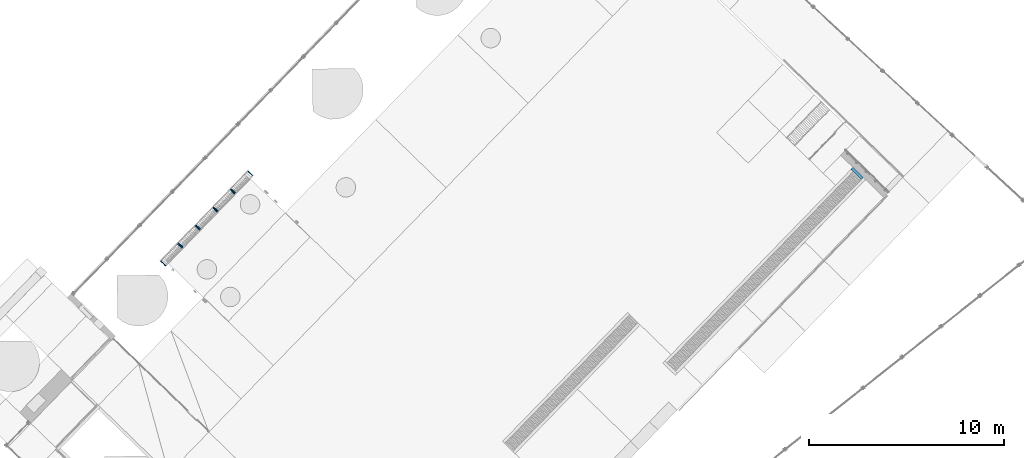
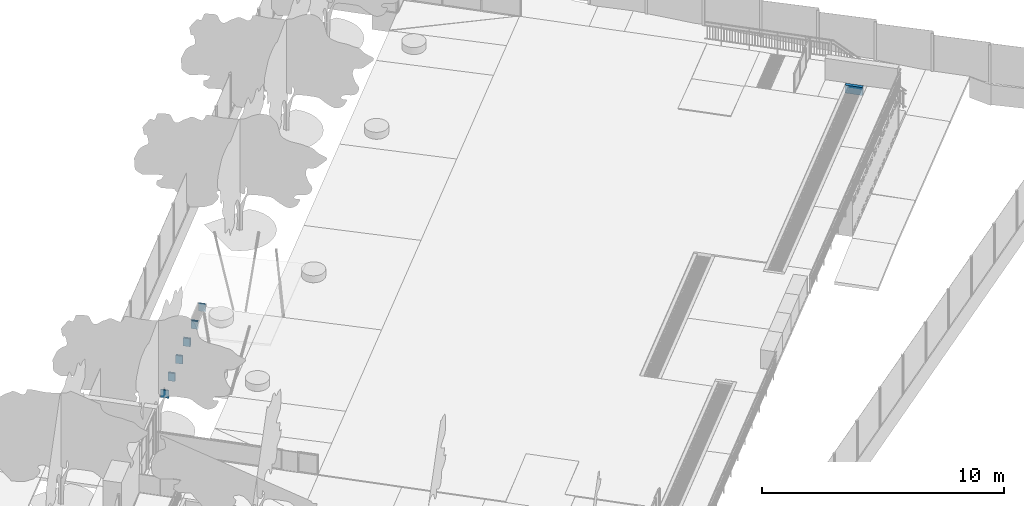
# One storey, part 20 of 37: 11 walls.
"""IFC2X3 building model written with IfcOpenShell, lengths in centimetres."""

from ifc_helpers import new_model, entity, si_unit, converted_unit, derived_unit, direction, frame, frame_2d, origin, place, context, subcontext, project, spatial, rectangle, extrude, material, layer, layer_set, layer_usage, type_object, element, save


model = new_model("IFC2X3")

# Units and contexts
model_context = context("Model", 3, precision=0.001, world=origin(), true_north=direction((0.717475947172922, 0.696583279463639)))
body_context = subcontext(model_context, "Body", "Model", "MODEL_VIEW")
ifc_project = project(units=[si_unit("LENGTHUNIT", "METRE", prefix="CENTI"), si_unit("AREAUNIT", "SQUARE_METRE"), si_unit("VOLUMEUNIT", "CUBIC_METRE"), converted_unit("PLANEANGLEUNIT", "DEGREE", entity("IfcRatioMeasure", 0.0174532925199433), si_unit("PLANEANGLEUNIT", "RADIAN"), dimensions=[0, 0, 0, 0, 0, 0, 0]), si_unit("MASSUNIT", "GRAM", prefix="KILO"), derived_unit("MASSDENSITYUNIT", [(si_unit("MASSUNIT", "GRAM", prefix="KILO"), 1), (si_unit("LENGTHUNIT", "METRE"), -3)]), si_unit("TIMEUNIT", "SECOND"), si_unit("FREQUENCYUNIT", "HERTZ"), si_unit("THERMODYNAMICTEMPERATUREUNIT", "DEGREE_CELSIUS"), derived_unit("THERMALTRANSMITTANCEUNIT", [(si_unit("MASSUNIT", "GRAM", prefix="KILO"), 1), (si_unit("THERMODYNAMICTEMPERATUREUNIT", "KELVIN"), -1), (si_unit("TIMEUNIT", "SECOND"), -3)]), derived_unit("VOLUMETRICFLOWRATEUNIT", [(si_unit("LENGTHUNIT", "METRE"), 3), (si_unit("TIMEUNIT", "SECOND"), -1)]), si_unit("ELECTRICCURRENTUNIT", "AMPERE"), si_unit("ELECTRICVOLTAGEUNIT", "VOLT"), si_unit("POWERUNIT", "WATT"), si_unit("FORCEUNIT", "NEWTON", prefix="KILO"), si_unit("ILLUMINANCEUNIT", "LUX"), si_unit("LUMINOUSFLUXUNIT", "LUMEN"), si_unit("LUMINOUSINTENSITYUNIT", "CANDELA"), derived_unit("USERDEFINED", [(si_unit("MASSUNIT", "GRAM", prefix="KILO"), -1), (si_unit("LENGTHUNIT", "METRE"), -2), (si_unit("TIMEUNIT", "SECOND"), 3), (si_unit("LUMINOUSFLUXUNIT", "LUMEN"), 1)]), derived_unit("LINEARVELOCITYUNIT", [(si_unit("LENGTHUNIT", "METRE"), 1), (si_unit("TIMEUNIT", "SECOND"), -1)]), si_unit("PRESSUREUNIT", "PASCAL"), derived_unit("USERDEFINED", [(si_unit("LENGTHUNIT", "METRE"), -2), (si_unit("MASSUNIT", "GRAM", prefix="KILO"), 1), (si_unit("TIMEUNIT", "SECOND"), -2)])], contexts=[model_context])

# Site, building, storey
site_placement = place(None, frame((0.0, 0.0, 0.0), z_axis=(0.0, 0.0, 1.0), x_axis=(0.696583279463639, 0.717475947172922, 0.0)))
site = spatial("IfcSite", under=ifc_project, at=site_placement, Name="Surface", CompositionType="ELEMENT")
building_placement = place(site_placement, origin())
building = spatial("IfcBuilding", under=site, at=building_placement, CompositionType="ELEMENT")
storey_placement = place(building_placement, origin())
storey = spatial("IfcBuildingStorey", under=building, at=storey_placement, Name="Nivel 0.00", CompositionType="ELEMENT", Elevation=0.0)

# Walls
ifc_material = material(Name="Concrete, Cast-in-Place gray")
ifc_layer_1 = layer(ifc_material, 15.0)
ifc_layer_set_1 = layer_set([ifc_layer_1], Name="Basic Wall:ARQ_FND_HA_150mm")
ifc_layer_usage_1 = layer_usage(ifc_layer_set_1, "AXIS2", "POSITIVE", -7.5)
wall_type_1 = type_object("IfcWallType", Name="Basic Wall:ARQ_FND_HA_150mm", PredefinedType="STANDARD", material=ifc_layer_set_1)
wall_1_placement = place(storey_placement, frame((1653.05250487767, -1420.04600379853, 110.0), z_axis=(0.0, 0.0, 1.0), x_axis=(0.0, 1.0, 0.0)))
element("IfcWallStandardCase", 1, at=wall_1_placement, inside=storey, type_object=wall_type_1, material=ifc_layer_usage_1, Name="Basic Wall:ARQ_FND_HA_150mm", ObjectType="Basic Wall:ARQ_FND_HA_150mm", context=body_context, shape_type="SweptSolid", body=[
    extrude(rectangle(XDim=74.9911465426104, YDim=15.0000000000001, at=frame_2d((37.4955732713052, -2.70894418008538e-14), x_axis=(-1.0, 0.0))), origin(), (0.0, 0.0, 1.0), 40.0),
])
ifc_layer_2 = layer(ifc_material, 5.0)
ifc_layer_set_2 = layer_set([ifc_layer_2], Name="Basic Wall:ARQ_FND_HA_50mm")
ifc_layer_usage_2 = layer_usage(ifc_layer_set_2, "AXIS2", "NEGATIVE", 2.5)
wall_type_2 = type_object("IfcWallType", Name="Basic Wall:ARQ_FND_HA_50mm", PredefinedType="STANDARD", material=ifc_layer_set_2)
wall_2_placement = place(storey_placement, frame((-1153.51946442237, 828.098169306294, 100.0), z_axis=(0.0, 0.0, 1.0), x_axis=(0.0, 1.0, 0.0)))
element("IfcWallStandardCase", 2, at=wall_2_placement, inside=storey, type_object=wall_type_2, material=ifc_layer_usage_2, Name="Basic Wall:ARQ_FND_HA_50mm", ObjectType="Basic Wall:ARQ_FND_HA_50mm", context=body_context, shape_type="SweptSolid", body=[
    extrude(rectangle(XDim=35.0000000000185, YDim=5.00000000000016, at=frame_2d((17.5000000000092, 0.0), x_axis=(-1.0, 0.0))), origin(), (0.0, 0.0, 1.0), 40.0),
])
ifc_layer_usage_3 = layer_usage(ifc_layer_set_2, "AXIS2", "NEGATIVE", 2.5)
wall_3_placement = place(storey_placement, frame((-512.009307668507, 863.098169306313, 100.0), z_axis=(0.0, 0.0, 1.0), x_axis=(0.0, -1.0, 0.0)))
element("IfcWallStandardCase", 3, at=wall_3_placement, inside=storey, type_object=wall_type_2, material=ifc_layer_usage_3, Name="Basic Wall:ARQ_FND_HA_50mm", ObjectType="Basic Wall:ARQ_FND_HA_50mm", context=body_context, shape_type="SweptSolid", body=[
    extrude(rectangle(XDim=30.0000000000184, YDim=4.99999999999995, at=frame_2d((15.0000000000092, 0.0), x_axis=(-1.0, 0.0))), origin(), (0.0, 0.0, 1.0), 40.0),
])
ifc_layer_usage_4 = layer_usage(ifc_layer_set_2, "AXIS2", "NEGATIVE", 2.5)
wall_4_placement = place(storey_placement, frame((-642.519464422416, 863.098169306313, 100.0), z_axis=(0.0, 0.0, 1.0), x_axis=(0.0, -1.0, 0.0)))
element("IfcWallStandardCase", 4, at=wall_4_placement, inside=storey, type_object=wall_type_2, material=ifc_layer_usage_4, Name="Basic Wall:ARQ_FND_HA_50mm", ObjectType="Basic Wall:ARQ_FND_HA_50mm", context=body_context, shape_type="SweptSolid", body=[
    extrude(rectangle(XDim=30.0000000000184, YDim=4.99999999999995, at=frame_2d((15.0000000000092, 0.0), x_axis=(-1.0, 0.0))), origin(), (0.0, 0.0, 1.0), 40.0),
])
ifc_layer_usage_5 = layer_usage(ifc_layer_set_2, "AXIS2", "POSITIVE", -2.5)
wall_5_placement = place(storey_placement, frame((-637.519464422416, 863.098169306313, 100.0), z_axis=(0.0, 0.0, 1.0), x_axis=(0.0, -1.0, 0.0)))
element("IfcWallStandardCase", 5, at=wall_5_placement, inside=storey, type_object=wall_type_2, material=ifc_layer_usage_5, Name="Basic Wall:ARQ_FND_HA_50mm", ObjectType="Basic Wall:ARQ_FND_HA_50mm", context=body_context, shape_type="SweptSolid", body=[
    extrude(rectangle(XDim=30.0000000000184, YDim=4.99999999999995, at=frame_2d((15.0000000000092, 0.0), x_axis=(-1.0, 0.0))), origin(), (0.0, 0.0, 1.0), 40.0),
])
ifc_layer_usage_6 = layer_usage(ifc_layer_set_2, "AXIS2", "NEGATIVE", 2.5)
wall_6_placement = place(storey_placement, frame((-771.519464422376, 863.098169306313, 100.0), z_axis=(0.0, 0.0, 1.0), x_axis=(0.0, -1.0, 0.0)))
element("IfcWallStandardCase", 6, at=wall_6_placement, inside=storey, type_object=wall_type_2, material=ifc_layer_usage_6, Name="Basic Wall:ARQ_FND_HA_50mm", ObjectType="Basic Wall:ARQ_FND_HA_50mm", context=body_context, shape_type="SweptSolid", body=[
    extrude(rectangle(XDim=30.0000000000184, YDim=4.99999999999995, at=frame_2d((15.0000000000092, 0.0), x_axis=(-1.0, 0.0))), origin(), (0.0, 0.0, 1.0), 40.0),
])
ifc_layer_usage_7 = layer_usage(ifc_layer_set_2, "AXIS2", "POSITIVE", -2.5)
wall_7_placement = place(storey_placement, frame((-766.519464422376, 863.098169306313, 100.0), z_axis=(0.0, 0.0, 1.0), x_axis=(0.0, -1.0, 0.0)))
element("IfcWallStandardCase", 7, at=wall_7_placement, inside=storey, type_object=wall_type_2, material=ifc_layer_usage_7, Name="Basic Wall:ARQ_FND_HA_50mm", ObjectType="Basic Wall:ARQ_FND_HA_50mm", context=body_context, shape_type="SweptSolid", body=[
    extrude(rectangle(XDim=30.0000000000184, YDim=4.99999999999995, at=frame_2d((15.0000000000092, 0.0), x_axis=(-1.0, 0.0))), origin(), (0.0, 0.0, 1.0), 40.0),
])
ifc_layer_usage_8 = layer_usage(ifc_layer_set_2, "AXIS2", "NEGATIVE", 2.5)
wall_8_placement = place(storey_placement, frame((-900.519464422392, 863.098169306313, 100.0), z_axis=(0.0, 0.0, 1.0), x_axis=(0.0, -1.0, 0.0)))
element("IfcWallStandardCase", 8, at=wall_8_placement, inside=storey, type_object=wall_type_2, material=ifc_layer_usage_8, Name="Basic Wall:ARQ_FND_HA_50mm", ObjectType="Basic Wall:ARQ_FND_HA_50mm", context=body_context, shape_type="SweptSolid", body=[
    extrude(rectangle(XDim=30.0000000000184, YDim=4.99999999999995, at=frame_2d((15.0000000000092, 0.0), x_axis=(-1.0, 0.0))), origin(), (0.0, 0.0, 1.0), 40.0),
])
ifc_layer_usage_9 = layer_usage(ifc_layer_set_2, "AXIS2", "POSITIVE", -2.5)
wall_9_placement = place(storey_placement, frame((-895.519464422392, 863.098169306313, 100.0), z_axis=(0.0, 0.0, 1.0), x_axis=(0.0, -1.0, 0.0)))
element("IfcWallStandardCase", 9, at=wall_9_placement, inside=storey, type_object=wall_type_2, material=ifc_layer_usage_9, Name="Basic Wall:ARQ_FND_HA_50mm", ObjectType="Basic Wall:ARQ_FND_HA_50mm", context=body_context, shape_type="SweptSolid", body=[
    extrude(rectangle(XDim=30.0000000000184, YDim=4.99999999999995, at=frame_2d((15.0000000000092, 0.0), x_axis=(-1.0, 0.0))), origin(), (0.0, 0.0, 1.0), 40.0),
])
ifc_layer_usage_10 = layer_usage(ifc_layer_set_2, "AXIS2", "NEGATIVE", 2.5)
wall_10_placement = place(storey_placement, frame((-1029.51946442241, 863.098169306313, 100.0), z_axis=(0.0, 0.0, 1.0), x_axis=(0.0, -1.0, 0.0)))
element("IfcWallStandardCase", 10, at=wall_10_placement, inside=storey, type_object=wall_type_2, material=ifc_layer_usage_10, Name="Basic Wall:ARQ_FND_HA_50mm", ObjectType="Basic Wall:ARQ_FND_HA_50mm", context=body_context, shape_type="SweptSolid", body=[
    extrude(rectangle(XDim=30.0000000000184, YDim=5.00000000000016, at=frame_2d((15.0000000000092, 0.0), x_axis=(-1.0, 0.0))), origin(), (0.0, 0.0, 1.0), 40.0),
])
ifc_layer_usage_11 = layer_usage(ifc_layer_set_2, "AXIS2", "POSITIVE", -2.5)
wall_11_placement = place(storey_placement, frame((-1024.51946442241, 863.098169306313, 100.0), z_axis=(0.0, 0.0, 1.0), x_axis=(0.0, -1.0, 0.0)))
element("IfcWallStandardCase", 11, at=wall_11_placement, inside=storey, type_object=wall_type_2, material=ifc_layer_usage_11, Name="Basic Wall:ARQ_FND_HA_50mm", ObjectType="Basic Wall:ARQ_FND_HA_50mm", context=body_context, shape_type="SweptSolid", body=[
    extrude(rectangle(XDim=30.0000000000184, YDim=5.00000000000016, at=frame_2d((15.0000000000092, 0.0), x_axis=(-1.0, 0.0))), origin(), (0.0, 0.0, 1.0), 40.0),
])

save(model, "model.ifc")
